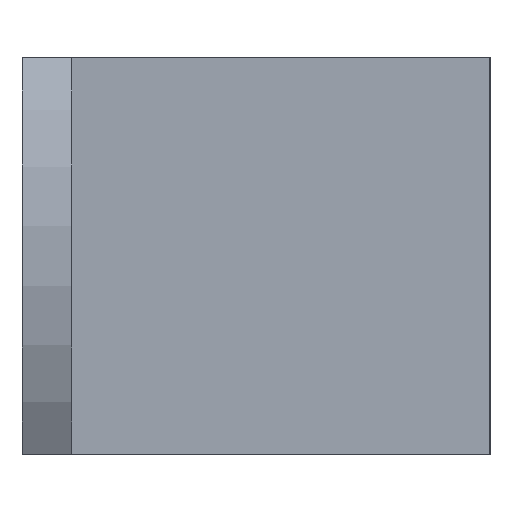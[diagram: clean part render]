
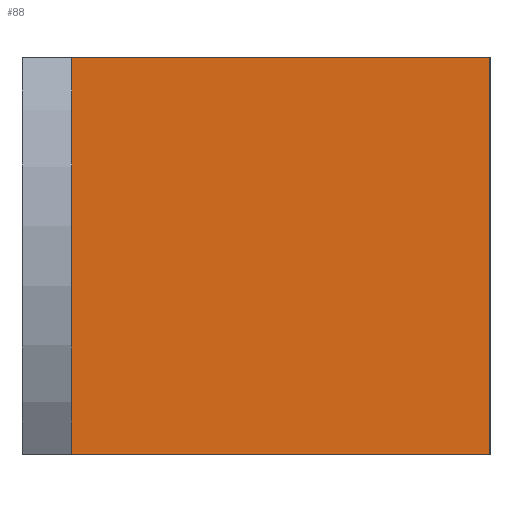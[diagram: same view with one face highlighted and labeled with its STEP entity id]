
A CAD part, left-side view. The second image highlights one B-rep face of the part: STEP entity #88.
In plain terms, the highlighted planar face has unit normal (-1, 0, 0).
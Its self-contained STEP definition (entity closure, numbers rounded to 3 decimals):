
#88 = ADVANCED_FACE( '', ( #179 ), #180, .F. );
#179 = FACE_OUTER_BOUND( '', #272, .T. );
#180 = PLANE( '', #273 );
#272 = EDGE_LOOP( '', ( #459, #460, #461, #462 ) );
#273 = AXIS2_PLACEMENT_3D( '', #463, #464, #465 );
#459 = ORIENTED_EDGE( '', *, *, #607, .T. );
#460 = ORIENTED_EDGE( '', *, *, #582, .F. );
#461 = ORIENTED_EDGE( '', *, *, #546, .F. );
#462 = ORIENTED_EDGE( '', *, *, #587, .T. );
#463 = CARTESIAN_POINT( '', ( -4., -3.5, 14. ) );
#464 = DIRECTION( '', ( 1., 0., 0. ) );
#465 = DIRECTION( '', ( 0., 0., -1. ) );
#546 = EDGE_CURVE( '', #649, #651, #652, .T. );
#582 = EDGE_CURVE( '', #651, #704, #708, .T. );
#587 = EDGE_CURVE( '', #649, #713, #715, .T. );
#607 = EDGE_CURVE( '', #713, #704, #739, .T. );
#649 = VERTEX_POINT( '', #794 );
#651 = VERTEX_POINT( '', #797 );
#652 = LINE( '', #798, #799 );
#704 = VERTEX_POINT( '', #866 );
#708 = LINE( '', #872, #873 );
#713 = VERTEX_POINT( '', #879 );
#715 = LINE( '', #882, #883 );
#739 = LINE( '', #916, #917 );
#794 = CARTESIAN_POINT( '', ( -4., -3.5, 14. ) );
#797 = CARTESIAN_POINT( '', ( -4., -33., 14. ) );
#798 = CARTESIAN_POINT( '', ( -4., -3.5, 14. ) );
#799 = VECTOR( '', #954, 1000. );
#866 = CARTESIAN_POINT( '', ( -4., -33., -14. ) );
#872 = CARTESIAN_POINT( '', ( -4., -33., 14. ) );
#873 = VECTOR( '', #999, 1000. );
#879 = CARTESIAN_POINT( '', ( -4., -3.5, -14. ) );
#882 = CARTESIAN_POINT( '', ( -4., -3.5, 14. ) );
#883 = VECTOR( '', #1005, 1000. );
#916 = CARTESIAN_POINT( '', ( -4., -3.5, -14. ) );
#917 = VECTOR( '', #1021, 1000. );
#954 = DIRECTION( '', ( 0., -1., 0. ) );
#999 = DIRECTION( '', ( 0., 0., -1. ) );
#1005 = DIRECTION( '', ( 0., 0., -1. ) );
#1021 = DIRECTION( '', ( 0., -1., 0. ) );
